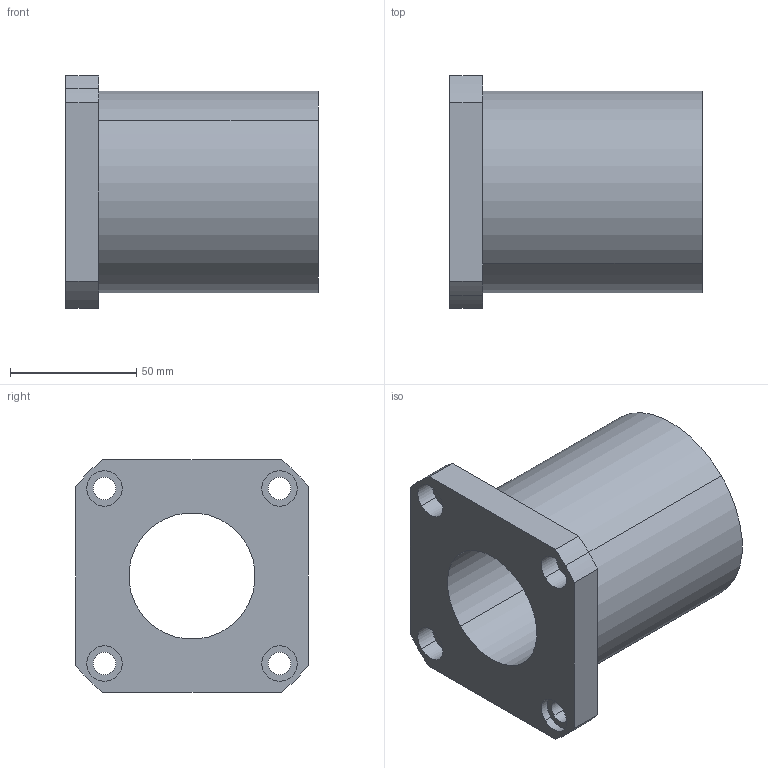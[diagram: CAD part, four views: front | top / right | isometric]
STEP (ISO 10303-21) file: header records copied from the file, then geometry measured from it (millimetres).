
FILE_DESCRIPTION (( 'STEP AP214' ), '1' );
FILE_NAME ('2.7055 Lineaarilaakeri LMK50UU.STEP', '2024-06-24T12:28:06', ( '' ), ( '' ), 'SwSTEP 2.0', 'SolidWorks 2024', '' );
FILE_SCHEMA (( 'AUTOMOTIVE_DESIGN' ));
Length unit declared in the file: millimetre
Products named in the file (1): 2.7055 Lineaarilaakeri LMK50UU
Bounding box: 100 x 92 x 92 mm (x, y, z)
Volume: 342505.8 mm3; surface area: 56011.4 mm2
Topology: 1 solids, 1 shells, 37 faces, 90 edges, 60 vertices
Faces by surface type: cylinder 26, plane 11
Entity records: 1159 total; most frequent: DIRECTION 218, CARTESIAN_POINT 188, ORIENTED_EDGE 180, AXIS2_PLACEMENT_3D 90, EDGE_CURVE 90, VERTEX_POINT 60, EDGE_LOOP 52, CIRCLE 52
